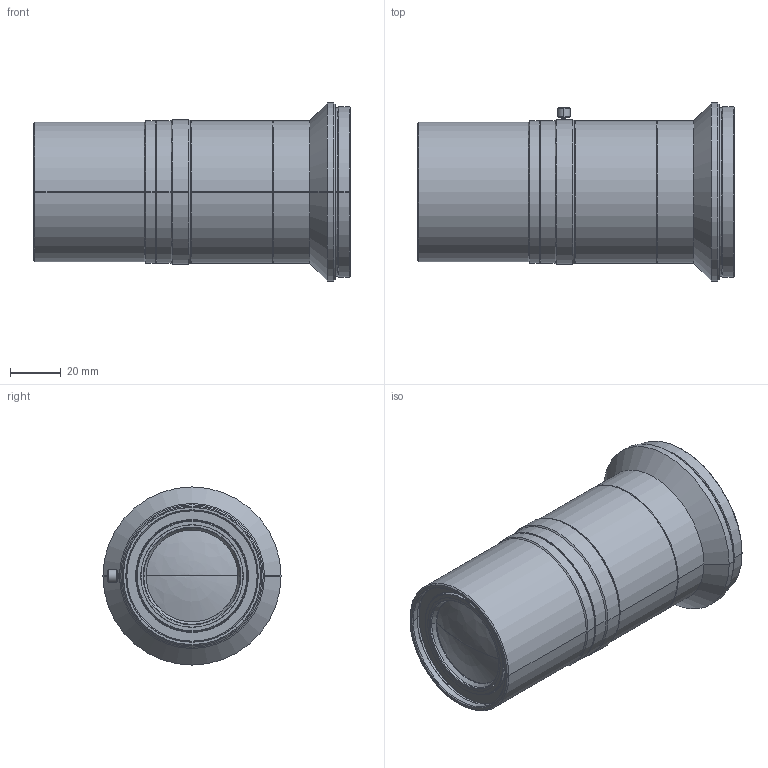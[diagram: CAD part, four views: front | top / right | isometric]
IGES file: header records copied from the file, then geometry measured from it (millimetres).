
Start section: SolidWorks IGES file using analytic representation for surfaces
Global section: file name: C:\Users\sugita_vst\Desktop\AutoCAD図面DATA\・L12040-20,25     (3Dモデル) ▲　途中\VS-L12040-2_M67S.IGS; native system: SolidWorks 2018; preprocessor: SolidWorks 2018; author: sugita_vst; date: 180921.161201; units: millimetre
Bounding box: 124.5 x 70 x 70 mm (x, y, z)
Surface area: 36470.5 mm2 (no closed solid volume)
Topology: 0 solids, 0 shells, 124 faces, 2104 edges, 2102 vertices
Faces by surface type: revolution 110, bspline 14
